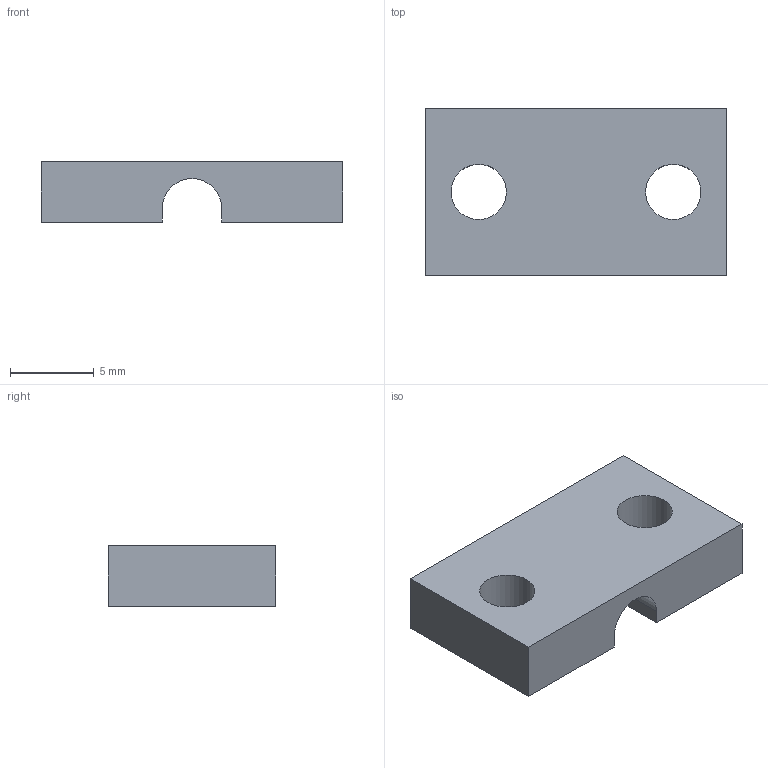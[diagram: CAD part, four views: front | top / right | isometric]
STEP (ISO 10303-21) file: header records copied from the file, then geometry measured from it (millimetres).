
FILE_DESCRIPTION(('Open CASCADE Model'),'2;1');
FILE_NAME('Open CASCADE Shape Model','2026-07-23T11:12:49',('Author'),( 'Open CASCADE'),'Open CASCADE STEP processor 7.9','Open CASCADE 7.9' ,'Unknown');
FILE_SCHEMA(('AUTOMOTIVE_DESIGN { 1 0 10303 214 1 1 1 1 }'));
Length unit declared in the file: millimetre
Products named in the file (1): Open CASCADE STEP translator 7.9 4
Bounding box: 18 x 10 x 3.6 mm (x, y, z)
Volume: 507.6 mm3; surface area: 623 mm2
Topology: 1 solids, 1 shells, 13 faces, 33 edges, 22 vertices
Faces by surface type: plane 9, cylinder 4
Full cylindrical faces by diameter (mm): 3.3 x2
Entity records: 832 total; most frequent: CARTESIAN_POINT 162, DIRECTION 117, LINE 71, VECTOR 71, ORIENTED_EDGE 66, PCURVE 66, DEFINITIONAL_REPRESENTATION 66, EDGE_CURVE 33
